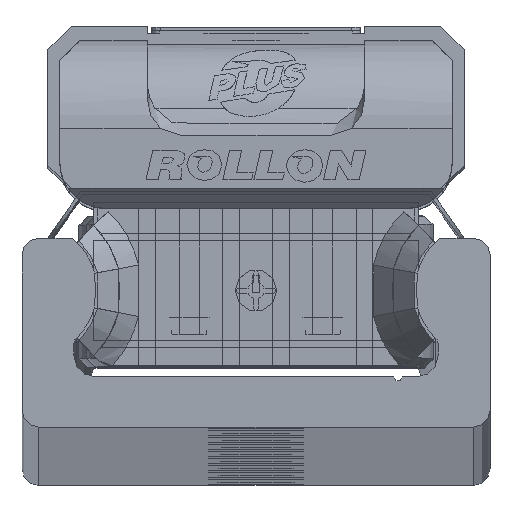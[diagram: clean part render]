
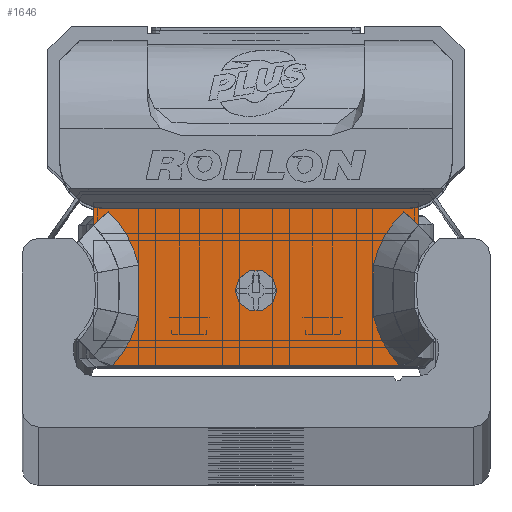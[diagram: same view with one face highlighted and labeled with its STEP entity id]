
A CAD part, top view. The second image highlights one B-rep face of the part: STEP entity #1646.
In plain terms, the highlighted planar face has unit normal (0, 0, 1) as drawn and (0, 0, -1) by its records, which use the part's own axes.
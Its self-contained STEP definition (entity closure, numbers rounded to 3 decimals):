
#1646 = ADVANCED_FACE( '', ( #3648, #3649 ), #3650, .F. );
#3648 = FACE_BOUND( '', #6030, .T. );
#3649 = FACE_OUTER_BOUND( '', #6031, .T. );
#3650 = PLANE( '', #6032 );
#6030 = EDGE_LOOP( '', ( #10427 ) );
#6031 = EDGE_LOOP( '', ( #10428, #10429, #10430, #10431, #10432, #10433, #10434, #10435, #10436, #10437, #10438, #10439, #10440, #10441 ) );
#6032 = AXIS2_PLACEMENT_3D( '', #10442, #10443, #10444 );
#10427 = ORIENTED_EDGE( '', *, *, #13109, .T. );
#10428 = ORIENTED_EDGE( '', *, *, #14495, .F. );
#10429 = ORIENTED_EDGE( '', *, *, #13337, .T. );
#10430 = ORIENTED_EDGE( '', *, *, #14496, .T. );
#10431 = ORIENTED_EDGE( '', *, *, #13655, .T. );
#10432 = ORIENTED_EDGE( '', *, *, #14497, .T. );
#10433 = ORIENTED_EDGE( '', *, *, #13068, .T. );
#10434 = ORIENTED_EDGE( '', *, *, #14498, .T. );
#10435 = ORIENTED_EDGE( '', *, *, #14025, .T. );
#10436 = ORIENTED_EDGE( '', *, *, #14499, .T. );
#10437 = ORIENTED_EDGE( '', *, *, #14500, .T. );
#10438 = ORIENTED_EDGE( '', *, *, #13612, .T. );
#10439 = ORIENTED_EDGE( '', *, *, #13454, .T. );
#10440 = ORIENTED_EDGE( '', *, *, #14501, .T. );
#10441 = ORIENTED_EDGE( '', *, *, #12967, .T. );
#10442 = CARTESIAN_POINT( '', ( 9.7, 4.89, -10.6 ) );
#10443 = DIRECTION( '', ( 0., 0., 1. ) );
#10444 = DIRECTION( '', ( 1., 0., 0. ) );
#12967 = EDGE_CURVE( '', #15384, #15382, #15385, .T. );
#13068 = EDGE_CURVE( '', #15556, #15554, #15557, .T. );
#13109 = EDGE_CURVE( '', #15626, #15626, #15627, .T. );
#13337 = EDGE_CURVE( '', #16013, #16011, #16014, .T. );
#13454 = EDGE_CURVE( '', #16207, #16205, #16208, .T. );
#13612 = EDGE_CURVE( '', #15877, #16207, #16473, .T. );
#13655 = EDGE_CURVE( '', #16535, #16540, #16542, .T. );
#14025 = EDGE_CURVE( '', #17110, #17108, #17111, .T. );
#14495 = EDGE_CURVE( '', #16013, #15382, #17777, .T. );
#14496 = EDGE_CURVE( '', #16011, #16535, #17778, .T. );
#14497 = EDGE_CURVE( '', #16540, #15556, #17779, .T. );
#14498 = EDGE_CURVE( '', #15554, #17110, #17780, .T. );
#14499 = EDGE_CURVE( '', #17108, #15681, #17781, .T. );
#14500 = EDGE_CURVE( '', #15681, #15877, #17782, .T. );
#14501 = EDGE_CURVE( '', #16205, #15384, #17783, .T. );
#15382 = VERTEX_POINT( '', #18961 );
#15384 = VERTEX_POINT( '', #18964 );
#15385 = LINE( '', #18965, #18966 );
#15554 = VERTEX_POINT( '', #19199 );
#15556 = VERTEX_POINT( '', #19202 );
#15557 = LINE( '', #19203, #19204 );
#15626 = VERTEX_POINT( '', #19290 );
#15627 = CIRCLE( '', #19291, 1.25 );
#15681 = VERTEX_POINT( '', #19359 );
#15877 = VERTEX_POINT( '', #19657 );
#16011 = VERTEX_POINT( '', #19833 );
#16013 = VERTEX_POINT( '', #19836 );
#16014 = CIRCLE( '', #19837, 2.8 );
#16205 = VERTEX_POINT( '', #20138 );
#16207 = VERTEX_POINT( '', #20141 );
#16208 = B_SPLINE_CURVE_WITH_KNOTS( '', 2, ( #20142, #20143, #20144 ), .UNSPECIFIED., .F., .F., ( 3, 3 ), ( 0., 1. ), .UNSPECIFIED. );
#16473 = B_SPLINE_CURVE_WITH_KNOTS( '', 2, ( #20517, #20518, #20519 ), .UNSPECIFIED., .F., .F., ( 3, 3 ), ( 0.1, 1. ), .UNSPECIFIED. );
#16535 = VERTEX_POINT( '', #20592 );
#16540 = VERTEX_POINT( '', #20598 );
#16542 = CIRCLE( '', #20601, 2.8 );
#17108 = VERTEX_POINT( '', #21381 );
#17110 = VERTEX_POINT( '', #21384 );
#17111 = B_SPLINE_CURVE_WITH_KNOTS( '', 2, ( #21385, #21386, #21387 ), .UNSPECIFIED., .F., .F., ( 3, 3 ), ( 0., 1. ), .UNSPECIFIED. );
#17777 = LINE( '', #22309, #22310 );
#17778 = LINE( '', #22311, #22312 );
#17779 = LINE( '', #22313, #22314 );
#17780 = B_SPLINE_CURVE_WITH_KNOTS( '', 2, ( #22315, #22316, #22317, #22318, #22319 ), .UNSPECIFIED., .F., .F., ( 3, 2, 3 ), ( 0., 0.5, 1. ), .UNSPECIFIED. );
#17781 = B_SPLINE_CURVE_WITH_KNOTS( '', 2, ( #22320, #22321, #22322 ), .UNSPECIFIED., .F., .F., ( 3, 3 ), ( 0., 1. ), .UNSPECIFIED. );
#17782 = LINE( '', #22323, #22324 );
#17783 = B_SPLINE_CURVE_WITH_KNOTS( '', 2, ( #22325, #22326, #22327 ), .UNSPECIFIED., .F., .F., ( 3, 3 ), ( 0., 1. ), .UNSPECIFIED. );
#18961 = CARTESIAN_POINT( '', ( -9.7, 3.494, -10.6 ) );
#18964 = CARTESIAN_POINT( '', ( -8.853, 4.366, -10.6 ) );
#18965 = CARTESIAN_POINT( '', ( -8.853, 4.366, -10.6 ) );
#18966 = VECTOR( '', #23375, 1000. );
#19199 = CARTESIAN_POINT( '', ( 8.853, 4.366, -10.6 ) );
#19202 = CARTESIAN_POINT( '', ( 9.7, 3.497, -10.6 ) );
#19203 = CARTESIAN_POINT( '', ( 9.7, 3.501, -10.6 ) );
#19204 = VECTOR( '', #23511, 1000. );
#19290 = CARTESIAN_POINT( '', ( 1.25, -0.39, -10.6 ) );
#19291 = AXIS2_PLACEMENT_3D( '', #23567, #23568, #23569 );
#19359 = CARTESIAN_POINT( '', ( 8.59, -4.893, -10.6 ) );
#19657 = CARTESIAN_POINT( '', ( -8.59, -4.893, -10.6 ) );
#19833 = CARTESIAN_POINT( '', ( -8.95, 4.51, -10.6 ) );
#19836 = CARTESIAN_POINT( '', ( -9.7, 4.612, -10.6 ) );
#19837 = AXIS2_PLACEMENT_3D( '', #23888, #23889, #23890 );
#20138 = CARTESIAN_POINT( '', ( -7.031, 1.144, -10.6 ) );
#20141 = CARTESIAN_POINT( '', ( -7.031, -1.944, -10.6 ) );
#20142 = CARTESIAN_POINT( '', ( -7.031, -1.944, -10.6 ) );
#20143 = CARTESIAN_POINT( '', ( -6.929, -0.4, -10.6 ) );
#20144 = CARTESIAN_POINT( '', ( -7.031, 1.144, -10.6 ) );
#20517 = CARTESIAN_POINT( '', ( -8.587, -4.89, -10.6 ) );
#20518 = CARTESIAN_POINT( '', ( -7.432, -3.63, -10.6 ) );
#20519 = CARTESIAN_POINT( '', ( -7.031, -1.944, -10.6 ) );
#20592 = CARTESIAN_POINT( '', ( 8.95, 4.51, -10.6 ) );
#20598 = CARTESIAN_POINT( '', ( 9.7, 4.612, -10.6 ) );
#20601 = AXIS2_PLACEMENT_3D( '', #24324, #24325, #24326 );
#21381 = CARTESIAN_POINT( '', ( 7.031, -1.944, -10.6 ) );
#21384 = CARTESIAN_POINT( '', ( 7.031, 1.144, -10.6 ) );
#21385 = CARTESIAN_POINT( '', ( 7.031, 1.144, -10.6 ) );
#21386 = CARTESIAN_POINT( '', ( 6.929, -0.4, -10.6 ) );
#21387 = CARTESIAN_POINT( '', ( 7.031, -1.944, -10.6 ) );
#22309 = CARTESIAN_POINT( '', ( -9.7, 4.89, -10.6 ) );
#22310 = VECTOR( '', #25420, 1000. );
#22311 = CARTESIAN_POINT( '', ( 9.7, 4.51, -10.6 ) );
#22312 = VECTOR( '', #25421, 1000. );
#22313 = CARTESIAN_POINT( '', ( 9.7, 4.89, -10.6 ) );
#22314 = VECTOR( '', #25422, 1000. );
#22315 = CARTESIAN_POINT( '', ( 8.853, 4.366, -10.6 ) );
#22316 = CARTESIAN_POINT( '', ( 8.182, 3.708, -10.6 ) );
#22317 = CARTESIAN_POINT( '', ( 7.715, 2.883, -10.6 ) );
#22318 = CARTESIAN_POINT( '', ( 7.249, 2.058, -10.6 ) );
#22319 = CARTESIAN_POINT( '', ( 7.031, 1.144, -10.6 ) );
#22320 = CARTESIAN_POINT( '', ( 7.031, -1.944, -10.6 ) );
#22321 = CARTESIAN_POINT( '', ( 7.429, -3.615, -10.6 ) );
#22322 = CARTESIAN_POINT( '', ( 8.588, -4.89, -10.6 ) );
#22323 = CARTESIAN_POINT( '', ( 9.7, -4.89, -10.6 ) );
#22324 = VECTOR( '', #25423, 1000. );
#22325 = CARTESIAN_POINT( '', ( -7.031, 1.144, -10.6 ) );
#22326 = CARTESIAN_POINT( '', ( -7.477, 3.018, -10.6 ) );
#22327 = CARTESIAN_POINT( '', ( -8.853, 4.366, -10.6 ) );
#23375 = DIRECTION( '', ( -0.7, -0.714, 0. ) );
#23511 = DIRECTION( '', ( -0.7, 0.714, 0. ) );
#23567 = CARTESIAN_POINT( '', ( 0., -0.39, -10.6 ) );
#23568 = DIRECTION( '', ( 0., 0., 1. ) );
#23569 = DIRECTION( '', ( 1., 0., 0. ) );
#23888 = CARTESIAN_POINT( '', ( -8.95, 7.31, -10.6 ) );
#23889 = DIRECTION( '', ( 0., 0., 1. ) );
#23890 = DIRECTION( '', ( 1., 0., 0. ) );
#24324 = CARTESIAN_POINT( '', ( 8.95, 7.31, -10.6 ) );
#24325 = DIRECTION( '', ( 0., 0., 1. ) );
#24326 = DIRECTION( '', ( 1., 0., 0. ) );
#25420 = DIRECTION( '', ( 0., -1., 0. ) );
#25421 = DIRECTION( '', ( 1., 0., 0. ) );
#25422 = DIRECTION( '', ( 0., -1., 0. ) );
#25423 = DIRECTION( '', ( -1., 0., 0. ) );
